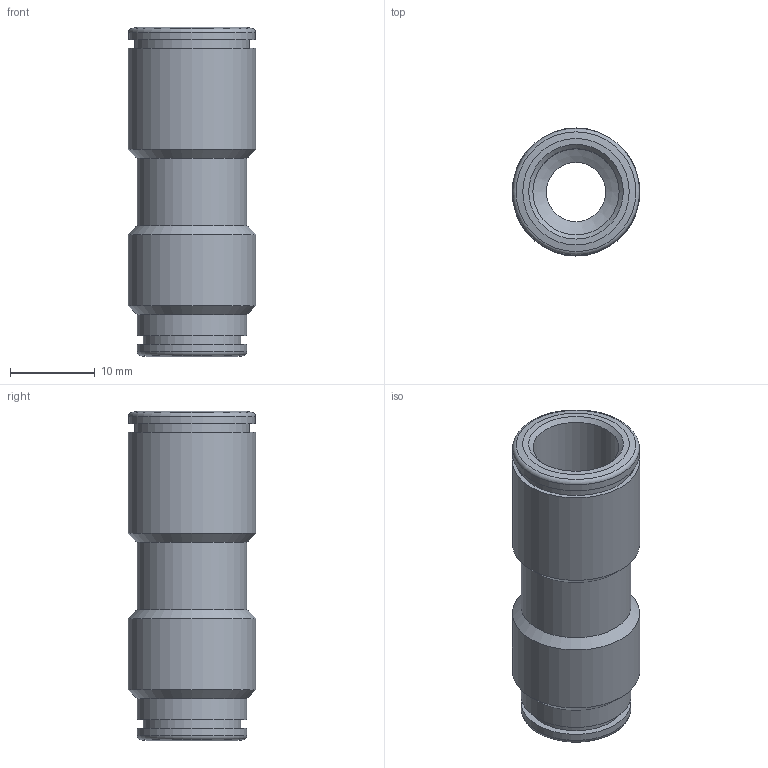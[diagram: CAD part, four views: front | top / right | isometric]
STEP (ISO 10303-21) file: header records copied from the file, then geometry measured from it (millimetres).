
FILE_DESCRIPTION(/* description */ (''),/* implementation_level */ '2;1');
FILE_NAME(/* name */ 'V200310_IPSO_03_8_10_06.09.16',/* time_stamp */ '2016-09-06T11:33:39+02:00',/* author */ (''),/* organization */ (''),/* preprocessor_version */ 'ST-DEVELOPER v16.5',/* originating_system */ 'HiCAD 2016 2101.0 Build 254',/* authorisation */ '');
FILE_SCHEMA (('AUTOMOTIVE_DESIGN { 1 0 10303 214 1 1 1 1 }'));
Length unit declared in the file: millimetre
Products named in the file (4): Root; R200310-i1; DR10-N; DR8-1_NEU
Assembly tree (3 placements, depth 2):
  Root
    R200310-i1
    DR10-N
    DR8-1_NEU
Bounding box: 15.1 x 15.1 x 39 mm (x, y, z)
Volume: 3142.6 mm3; surface area: 4479.6 mm2
Topology: 3 solids, 3 shells, 50 faces, 91 edges, 51 vertices
Faces by surface type: cylinder 19, cone 19, plane 10, torus 2
Full cylindrical faces by diameter (mm): 7 x1, 8.1 x1, 8.2 x1, 10.1 x1, 10.2 x2, 11 x1, 11.5 x1, 11.6 x1, 12.3 x1, 13 x4, 13.6 x1, 13.7 x1, 15 x1, 15.1 x2
Entity records: 1598 total; most frequent: DIRECTION 212, CARTESIAN_POINT 156, AXIS2_PLACEMENT_3D 106, PRESENTATION_STYLE_ASSIGNMENT 103, COLOUR_RGB 101, DRAUGHTING_PRE_DEFINED_CURVE_FONT 100, CURVE_STYLE 100, OVER_RIDING_STYLED_ITEM 100
